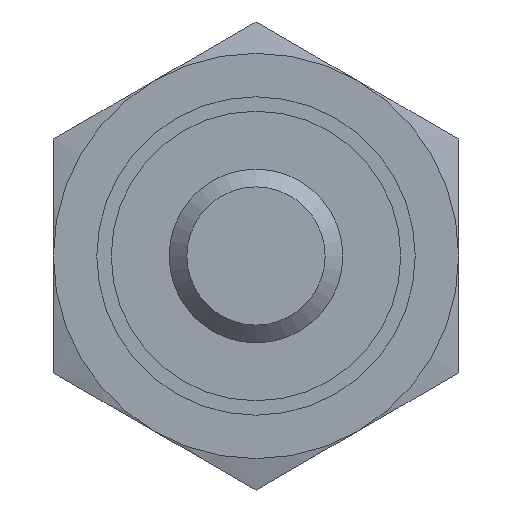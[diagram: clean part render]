
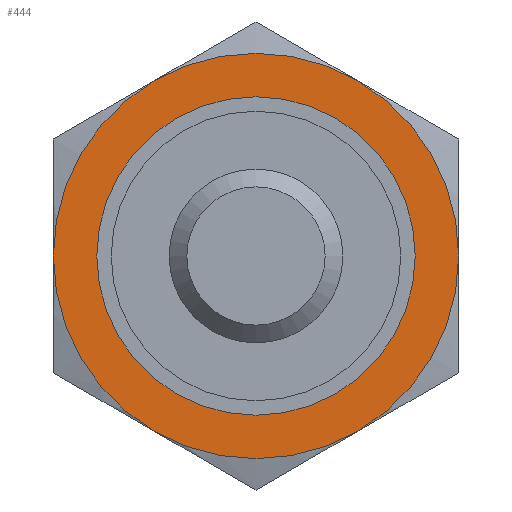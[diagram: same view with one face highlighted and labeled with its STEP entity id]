
A CAD part, front view. The second image highlights one B-rep face of the part: STEP entity #444.
In plain terms, the highlighted planar face has unit normal (0, -1, 0).
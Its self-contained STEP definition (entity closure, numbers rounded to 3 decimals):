
#39=PLANE('',#499);
#54=CIRCLE('',#488,3.5);
#55=CIRCLE('',#490,3.5);
#56=CIRCLE('',#492,3.5);
#57=CIRCLE('',#494,3.5);
#58=CIRCLE('',#496,3.5);
#59=CIRCLE('',#498,3.5);
#60=CIRCLE('',#500,2.75);
#100=ORIENTED_EDGE('',*,*,#216,.F.);
#101=ORIENTED_EDGE('',*,*,#207,.T.);
#102=ORIENTED_EDGE('',*,*,#210,.T.);
#103=ORIENTED_EDGE('',*,*,#213,.T.);
#104=ORIENTED_EDGE('',*,*,#200,.T.);
#105=ORIENTED_EDGE('',*,*,#201,.T.);
#106=ORIENTED_EDGE('',*,*,#204,.T.);
#200=EDGE_CURVE('',#256,#258,#54,.T.);
#201=EDGE_CURVE('',#258,#259,#55,.T.);
#204=EDGE_CURVE('',#259,#261,#56,.T.);
#207=EDGE_CURVE('',#261,#263,#57,.T.);
#210=EDGE_CURVE('',#263,#265,#58,.T.);
#213=EDGE_CURVE('',#265,#256,#59,.T.);
#216=EDGE_CURVE('',#268,#268,#60,.T.);
#256=VERTEX_POINT('',#693);
#258=VERTEX_POINT('',#699);
#259=VERTEX_POINT('',#703);
#261=VERTEX_POINT('',#715);
#263=VERTEX_POINT('',#727);
#265=VERTEX_POINT('',#739);
#268=VERTEX_POINT('',#762);
#326=EDGE_LOOP('',(#100));
#327=EDGE_LOOP('',(#101,#102,#103,#104,#105,#106));
#378=FACE_BOUND('',#326,.T.);
#379=FACE_BOUND('',#327,.T.);
#444=ADVANCED_FACE('',(#378,#379),#39,.F.);
#488=AXIS2_PLACEMENT_3D('',#700,#555,#556);
#490=AXIS2_PLACEMENT_3D('',#702,#559,#560);
#492=AXIS2_PLACEMENT_3D('',#714,#563,#564);
#494=AXIS2_PLACEMENT_3D('',#726,#567,#568);
#496=AXIS2_PLACEMENT_3D('',#738,#571,#572);
#498=AXIS2_PLACEMENT_3D('',#750,#575,#576);
#499=AXIS2_PLACEMENT_3D('',#760,#577,#578);
#500=AXIS2_PLACEMENT_3D('',#761,#579,#580);
#555=DIRECTION('',(0.,-1.,0.));
#556=DIRECTION('',(0.,0.,-1.));
#559=DIRECTION('',(0.,-1.,0.));
#560=DIRECTION('',(0.,0.,-1.));
#563=DIRECTION('',(0.,-1.,0.));
#564=DIRECTION('',(0.,0.,-1.));
#567=DIRECTION('',(0.,-1.,0.));
#568=DIRECTION('',(0.,0.,-1.));
#571=DIRECTION('',(0.,-1.,0.));
#572=DIRECTION('',(0.,0.,-1.));
#575=DIRECTION('',(0.,-1.,0.));
#576=DIRECTION('',(0.,0.,-1.));
#577=DIRECTION('',(0.,1.,0.));
#578=DIRECTION('',(0.,0.,1.));
#579=DIRECTION('',(0.,-1.,0.));
#580=DIRECTION('',(0.,0.,-1.));
#693=CARTESIAN_POINT('',(-1.75,1.,3.031));
#699=CARTESIAN_POINT('',(-3.5,1.,0.));
#700=CARTESIAN_POINT('',(0.,1.,0.));
#702=CARTESIAN_POINT('',(0.,1.,0.));
#703=CARTESIAN_POINT('',(-1.75,1.,-3.031));
#714=CARTESIAN_POINT('',(0.,1.,0.));
#715=CARTESIAN_POINT('',(1.75,1.,-3.031));
#726=CARTESIAN_POINT('',(0.,1.,0.));
#727=CARTESIAN_POINT('',(3.5,1.,0.));
#738=CARTESIAN_POINT('',(0.,1.,0.));
#739=CARTESIAN_POINT('',(1.75,1.,3.031));
#750=CARTESIAN_POINT('',(0.,1.,0.));
#760=CARTESIAN_POINT('',(3.5,1.,0.));
#761=CARTESIAN_POINT('',(0.,1.,0.));
#762=CARTESIAN_POINT('',(0.,1.,-2.75));
